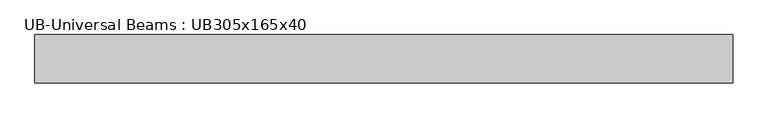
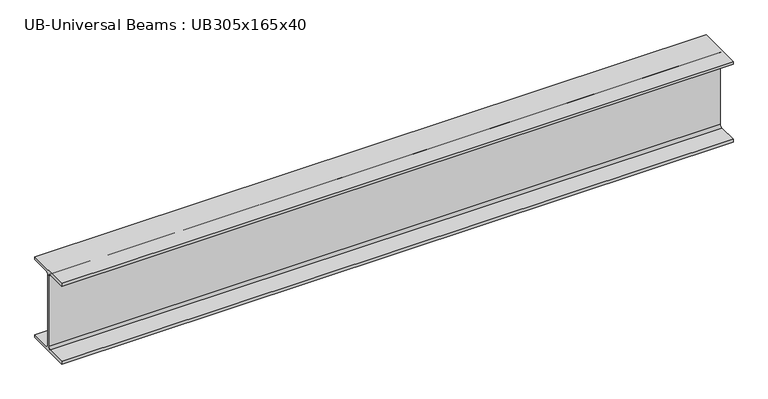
"""IFC4 building model written with IfcOpenShell, lengths in millimetres: beam geometry, UB-Universal Beams : UB305x165x40."""

from ifc_helpers import new_model, si_unit, point, frame, frame_2d, origin, place, context, project, spatial, polyline, circle_curve, trimmed, segment, composite_curve, outline, extrude, source, transform, mapped, element, save


def ub_universal_beams_ub305x165x40_729a4ea5(model_context):
    return source(origin(), model_context, "Body", "SweptSolid", [
        extrude(outline(composite_curve([segment(polyline([(82.5, -141.5), (82.5, -151.7), (-82.5, -151.7), (-82.5, -141.5), (-11.9, -141.5)]), True, "CONTINUOUS"), segment(trimmed(circle_curve(frame_2d((-11.9, -132.6)), 8.9), [point((-11.9, -141.5))], [point((-3.0, -132.6))], True, "CARTESIAN"), True, "CONTINUOUS"), segment(polyline([(-3.0, -132.6), (-3.0, 132.6)]), True, "CONTINUOUS"), segment(trimmed(circle_curve(frame_2d((-11.9, 132.6)), 8.9), [point((-3.0, 132.6))], [point((-11.9, 141.5))], True, "CARTESIAN"), True, "CONTINUOUS"), segment(polyline([(-11.9, 141.5), (-82.5, 141.5), (-82.5, 151.7), (82.5, 151.7), (82.5, 141.5), (11.9, 141.5)]), True, "CONTINUOUS"), segment(trimmed(circle_curve(frame_2d((11.9, 132.6)), 8.9), [point((11.9, 141.5))], [point((3.0, 132.6))], True, "CARTESIAN"), True, "CONTINUOUS"), segment(polyline([(3.0, 132.6), (3.0, -132.6)]), True, "CONTINUOUS"), segment(trimmed(circle_curve(frame_2d((11.9, -132.6)), 8.9), [point((3.0, -132.6))], [point((11.9, -141.5))], True, "CARTESIAN"), True, "CONTINUOUS"), segment(polyline([(11.9, -141.5), (82.5, -141.5)]), True, "CONTINUOUS")], self_intersect=False)), frame((-1309.95, 0.0, 0.0), z_axis=(1.0, 0.0, 0.0), x_axis=(0.0, 1.0, 0.0)), (0.0, 0.0, 1.0), 2388.8),
    ])


if __name__ == "__main__":
    model = new_model("IFC4")
    model_context = context("Model", 3, world=origin())
    ifc_project = project(units=[si_unit("LENGTHUNIT", "METRE", prefix="MILLI")], contexts=[model_context])
    site = spatial("IfcSite", under=ifc_project)
    building = spatial("IfcBuilding", under=site)
    placement = place(None, origin())
    ub_universal_beams_ub305x165x40_shape = ub_universal_beams_ub305x165x40_729a4ea5(model_context)
    element("IfcBeam", 1, ObjectType="UB-Universal Beams : UB305x165x40", at=placement, inside=building, context=model_context, shape_type="MappedRepresentation", body=[
        mapped(ub_universal_beams_ub305x165x40_shape, transform((0.0, 0.0, 0.0), x_axis=(1.0, 0.0, 0.0), y_axis=(0.0, 1.0, 0.0), z_axis=(0.0, 0.0, 1.0))),
    ])
    save(model, "model.ifc")
